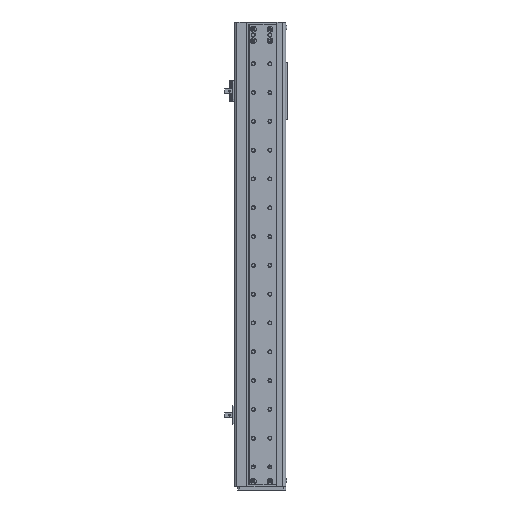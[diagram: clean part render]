
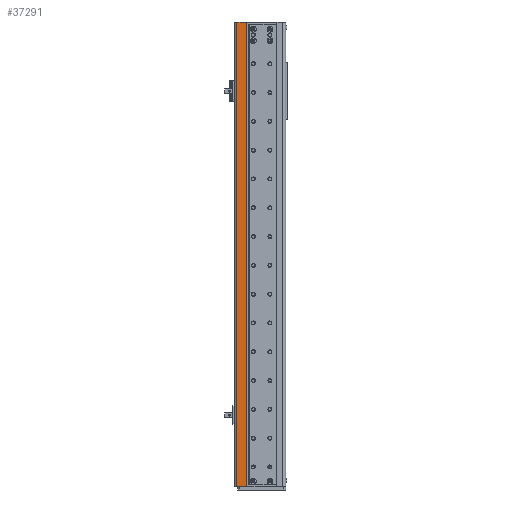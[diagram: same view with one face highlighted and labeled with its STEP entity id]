
A CAD part, front view. The second image highlights one B-rep face of the part: STEP entity #37291.
In plain terms, the highlighted planar face has unit normal (0, -1, 0).
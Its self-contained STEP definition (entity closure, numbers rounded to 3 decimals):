
#66 = PLANE ( 'NONE',  #29627 ) ;
#731 = CARTESIAN_POINT ( 'NONE',  ( 12.5, 0., 645. ) ) ;
#963 = VERTEX_POINT ( 'NONE', #29783 ) ;
#1835 = CARTESIAN_POINT ( 'NONE',  ( -1., 0., 0. ) ) ;
#4008 = DIRECTION ( 'NONE',  ( 0., 0., -1. ) ) ;
#4143 = CARTESIAN_POINT ( 'NONE',  ( 12.5, 0., 0. ) ) ;
#4201 = DIRECTION ( 'NONE',  ( 1., 0., 0. ) ) ;
#4526 = CARTESIAN_POINT ( 'NONE',  ( 12.3, 0., 645. ) ) ;
#4794 = ORIENTED_EDGE ( 'NONE', *, *, #11102, .T. ) ;
#6923 = LINE ( 'NONE', #17377, #16643 ) ;
#7568 = ORIENTED_EDGE ( 'NONE', *, *, #13909, .T. ) ;
#8123 = DIRECTION ( 'NONE',  ( 0., 0., 1. ) ) ;
#8375 = LINE ( 'NONE', #4143, #40042 ) ;
#8400 = CARTESIAN_POINT ( 'NONE',  ( 12.3, 0., 645. ) ) ;
#11102 = EDGE_CURVE ( 'NONE', #27413, #17176, #52513, .T. ) ;
#12681 = EDGE_CURVE ( 'NONE', #963, #23579, #29866, .T. ) ;
#13909 = EDGE_CURVE ( 'NONE', #23579, #27413, #8375, .T. ) ;
#16643 = VECTOR ( 'NONE', #17201, 1000. ) ;
#16984 = CARTESIAN_POINT ( 'NONE',  ( -1., 0., 0. ) ) ;
#17176 = VERTEX_POINT ( 'NONE', #4526 ) ;
#17201 = DIRECTION ( 'NONE',  ( 1., 0., 0. ) ) ;
#17377 = CARTESIAN_POINT ( 'NONE',  ( 12.5, 0., 645. ) ) ;
#18989 = VECTOR ( 'NONE', #8123, 1000. ) ;
#23579 = VERTEX_POINT ( 'NONE', #16984 ) ;
#24801 = ORIENTED_EDGE ( 'NONE', *, *, #39382, .F. ) ;
#26475 = ORIENTED_EDGE ( 'NONE', *, *, #12681, .T. ) ;
#27413 = VERTEX_POINT ( 'NONE', #28603 ) ;
#28603 = CARTESIAN_POINT ( 'NONE',  ( 12.3, 0., 0. ) ) ;
#29627 = AXIS2_PLACEMENT_3D ( 'NONE', #731, #52534, #52154 ) ;
#29783 = CARTESIAN_POINT ( 'NONE',  ( -1., 0., 645. ) ) ;
#29866 = LINE ( 'NONE', #1835, #39549 ) ;
#31708 = EDGE_LOOP ( 'NONE', ( #24801, #26475, #7568, #4794 ) ) ;
#37291 = ADVANCED_FACE ( 'NONE', ( #51831 ), #66, .F. ) ;
#39382 = EDGE_CURVE ( 'NONE', #963, #17176, #6923, .T. ) ;
#39549 = VECTOR ( 'NONE', #4008, 1000. ) ;
#40042 = VECTOR ( 'NONE', #4201, 1000. ) ;
#51831 = FACE_OUTER_BOUND ( 'NONE', #31708, .T. ) ;
#52154 = DIRECTION ( 'NONE',  ( -1., 0., 0. ) ) ;
#52513 = LINE ( 'NONE', #8400, #18989 ) ;
#52534 = DIRECTION ( 'NONE',  ( 0., 1., 0. ) ) ;
